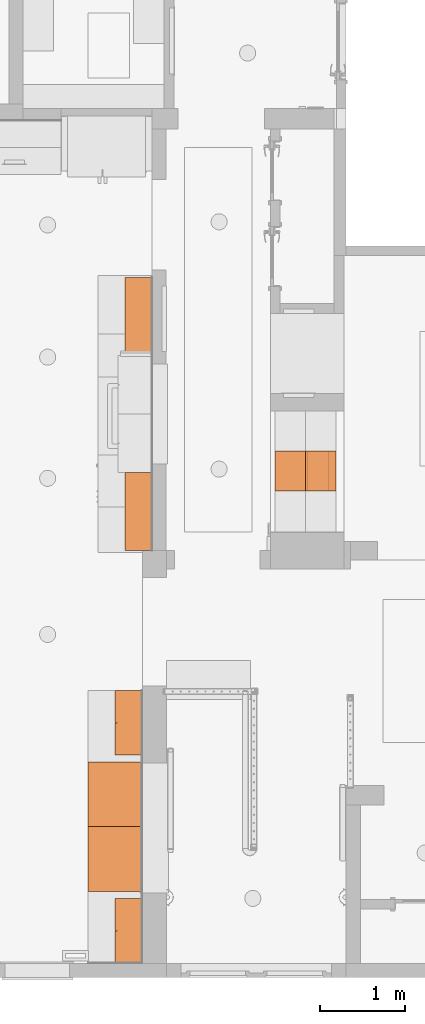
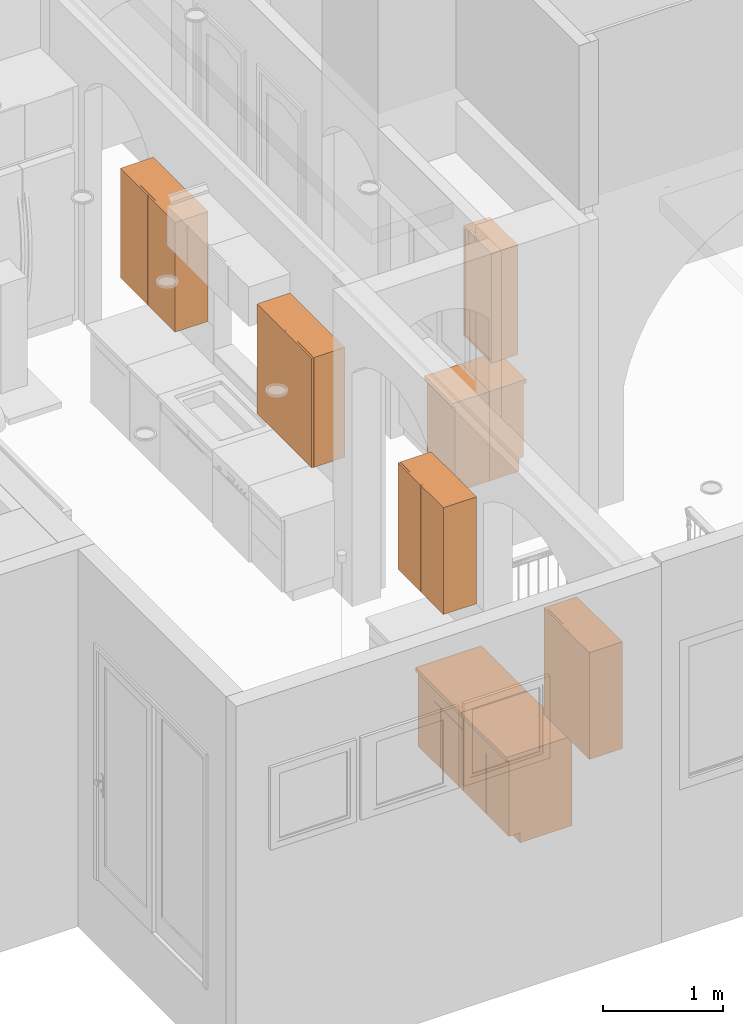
# One storey, part 55 of 77: 9 proxies.
"""IFC2X3 building model written with IfcOpenShell, lengths in inches."""

from ifc_helpers import new_model, entity, si_unit, converted_unit, derived_unit, money_unit, direction, frame, origin_with_axes, place, context, subcontext, project, spatial, faceted_brep, source, transform, mapped, type_object, element, save


model = new_model("IFC2X3")

# Units and contexts
model_context = context("Model", 3, precision=0.000393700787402, world=origin_with_axes(), true_north=direction((0.0, 1.0)))
body_context = subcontext(model_context, "Body", "Model", "MODEL_VIEW")
ifc_project = project(units=[converted_unit("LENGTHUNIT", "INCH", entity("IfcPositiveLengthMeasure", 0.0254), si_unit("LENGTHUNIT", "METRE"), dimensions=[1, 0, 0, 0, 0, 0, 0]), converted_unit("AREAUNIT", "SQUARE_FOOT", entity("IfcPositiveLengthMeasure", 0.09290304), si_unit("AREAUNIT", "SQUARE_METRE"), dimensions=[2, 0, 0, 0, 0, 0, 0]), si_unit("PLANEANGLEUNIT", "RADIAN"), si_unit("SOLIDANGLEUNIT", "STERADIAN"), money_unit("USD"), converted_unit("TIMEUNIT", "Year", entity("IfcTimeMeasure", 31556926.0), si_unit("TIMEUNIT", "SECOND"), dimensions=[0, 0, 1, 0, 0, 0, 0]), si_unit("MASSUNIT", "GRAM", prefix="KILO"), si_unit("THERMODYNAMICTEMPERATUREUNIT", "DEGREE_CELSIUS"), si_unit("LUMINOUSINTENSITYUNIT", "LUMEN"), si_unit("ENERGYUNIT", "JOULE", prefix="MEGA"), derived_unit("THERMALCONDUCTANCEUNIT", [(si_unit("POWERUNIT", "WATT"), 1), (si_unit("LENGTHUNIT", "METRE"), -1), (si_unit("THERMODYNAMICTEMPERATUREUNIT", "KELVIN"), -1)]), derived_unit("SPECIFICHEATCAPACITYUNIT", [(si_unit("ENERGYUNIT", "JOULE"), 1), (si_unit("MASSUNIT", "GRAM", prefix="KILO"), -1), (si_unit("THERMODYNAMICTEMPERATUREUNIT", "KELVIN"), -1)]), derived_unit("MASSDENSITYUNIT", [(si_unit("MASSUNIT", "GRAM", prefix="KILO"), 1), (si_unit("VOLUMEUNIT", "CUBIC_METRE"), -1)])], contexts=[model_context])

# Site, building, storey
site_placement = place(None, origin_with_axes())
site = spatial("IfcSite", under=ifc_project, at=site_placement, Name="Site", CompositionType="ELEMENT")
building_placement = place(site_placement, origin_with_axes())
building = spatial("IfcBuilding", under=site, at=building_placement, Name="Building", CompositionType="ELEMENT")
storey_placement = place(building_placement, frame((0.0, 0.0, 127.952755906), z_axis=(0.0, 0.0, 1.0), x_axis=(1.0, 0.0, 0.0)))
storey = spatial("IfcBuildingStorey", under=building, at=storey_placement, Name="Second Floor", CompositionType="ELEMENT", Elevation=127.953)

# Proxies
building_element_proxy_type_1 = type_object("IfcBuildingElementProxyType", Name="Wall Cabinet Block 25", PredefinedType="NOTDEFINED")
shared_shape_1 = source(origin_with_axes(), body_context, "Body", "Brep", [
    faceted_brep([(0.75, -9.28937007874, 70.8361220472), (17.7539370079, -9.28937007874, 70.8361220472), (17.7539370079, -9.28937007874, 71.5861220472), (0.75, -9.28937007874, 71.5861220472), (0.75, -0.75, 70.8361220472), (17.7539370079, -0.75, 70.8361220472), (17.7539370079, -0.75, 71.5861220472), (0.75, -0.75, 71.5861220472)], [[[0, 1, 2, 3]], [[0, 4, 5, 1]], [[1, 5, 6, 2]], [[3, 2, 6, 7]], [[4, 0, 3, 7]], [[5, 4, 7, 6]]]),
    faceted_brep([(0.75, -9.28937007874, 81.6722440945), (17.7539370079, -9.28937007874, 81.6722440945), (17.7539370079, -9.28937007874, 82.4222440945), (0.75, -9.28937007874, 82.4222440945), (0.75, -0.75, 81.6722440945), (17.7539370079, -0.75, 81.6722440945), (17.7539370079, -0.75, 82.4222440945), (0.75, -0.75, 82.4222440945)], [[[0, 1, 2, 3]], [[0, 4, 5, 1]], [[1, 5, 6, 2]], [[3, 2, 6, 7]], [[4, 0, 3, 7]], [[5, 4, 7, 6]]]),
    faceted_brep([(0.75, -9.28937007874, 92.5083661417), (17.7539370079, -9.28937007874, 92.5083661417), (17.7539370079, -9.28937007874, 93.2583661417), (0.75, -9.28937007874, 93.2583661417), (0.75, -0.75, 92.5083661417), (17.7539370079, -0.75, 92.5083661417), (17.7539370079, -0.75, 93.2583661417), (0.75, -0.75, 93.2583661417)], [[[0, 1, 2, 3]], [[0, 4, 5, 1]], [[1, 5, 6, 2]], [[3, 2, 6, 7]], [[4, 0, 3, 7]], [[5, 4, 7, 6]]]),
    faceted_brep([(0.0393700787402, -10.0393700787, 60.0393700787), (0.0393700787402, -10.0393700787, 104.05511811), (0.0393700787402, -9.28937007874, 104.05511811), (0.0393700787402, -9.28937007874, 60.0393700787), (3.03937007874, -10.0393700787, 63.0393700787), (3.03937007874, -10.0393700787, 101.05511811), (3.03937007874, -9.28937007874, 101.05511811), (3.03937007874, -9.28937007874, 63.0393700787)], [[[0, 1, 2, 3]], [[1, 0, 4, 5]], [[2, 1, 5, 6]], [[3, 2, 6, 7]], [[0, 3, 7, 4]], [[5, 4, 7, 6]]]),
    faceted_brep([(15.4645669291, -10.0393700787, 63.0393700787), (15.4645669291, -10.0393700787, 101.05511811), (15.4645669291, -9.28937007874, 101.05511811), (15.4645669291, -9.28937007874, 63.0393700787), (18.4645669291, -10.0393700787, 60.0393700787), (18.4645669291, -10.0393700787, 104.05511811), (18.4645669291, -9.28937007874, 104.05511811), (18.4645669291, -9.28937007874, 60.0393700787)], [[[0, 1, 2, 3]], [[1, 0, 4, 5]], [[2, 1, 5, 6]], [[3, 2, 6, 7]], [[0, 3, 7, 4]], [[5, 4, 7, 6]]]),
    faceted_brep([(0.0393700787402, -9.28937007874, 60.0393700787), (0.0393700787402, -10.0393700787, 60.0393700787), (3.03937007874, -10.0393700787, 63.0393700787), (3.03937007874, -9.28937007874, 63.0393700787), (18.4645669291, -9.28937007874, 60.0393700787), (18.4645669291, -10.0393700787, 60.0393700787), (15.4645669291, -10.0393700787, 63.0393700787), (15.4645669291, -9.28937007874, 63.0393700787)], [[[0, 1, 2, 3]], [[1, 0, 4, 5]], [[2, 1, 5, 6]], [[7, 3, 2, 6]], [[0, 3, 7, 4]], [[7, 6, 5, 4]]]),
    faceted_brep([(0.0393700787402, -10.0393700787, 104.05511811), (0.0393700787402, -9.28937007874, 104.05511811), (3.03937007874, -9.28937007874, 101.05511811), (3.03937007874, -10.0393700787, 101.05511811), (18.4645669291, -10.0393700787, 104.05511811), (18.4645669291, -9.28937007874, 104.05511811), (15.4645669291, -9.28937007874, 101.05511811), (15.4645669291, -10.0393700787, 101.05511811)], [[[0, 1, 2, 3]], [[1, 0, 4, 5]], [[2, 1, 5, 6]], [[2, 6, 7, 3]], [[0, 3, 7, 4]], [[7, 6, 5, 4]]]),
    faceted_brep([(15.4645669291, -9.47687007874, 63.0393700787), (3.03937007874, -9.47687007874, 63.0393700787), (3.03937007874, -9.47687007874, 101.05511811), (15.4645669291, -9.47687007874, 101.05511811), (15.4645669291, -9.85187007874, 63.0393700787), (3.03937007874, -9.85187007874, 63.0393700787), (3.03937007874, -9.85187007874, 101.05511811), (15.4645669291, -9.85187007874, 101.05511811)], [[[0, 1, 2, 3]], [[1, 0, 4, 5]], [[2, 1, 5, 6]], [[3, 2, 6, 7]], [[0, 3, 7, 4]], [[5, 4, 7, 6]]]),
    faceted_brep([(0.75, -9.28937007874, 60.0), (17.7539370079, -9.28937007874, 60.0), (17.7539370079, -9.28937007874, 60.75), (0.75, -9.28937007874, 60.75), (0.75, 0.0, 60.0), (17.7539370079, 0.0, 60.0), (17.7539370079, 0.0, 60.75), (0.75, 0.0, 60.75)], [[[0, 1, 2, 3]], [[0, 4, 5, 1]], [[1, 5, 6, 2]], [[3, 2, 6, 7]], [[4, 0, 3, 7]], [[5, 4, 7, 6]]]),
    faceted_brep([(0.75, -9.28937007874, 103.344488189), (17.7539370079, -9.28937007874, 103.344488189), (17.7539370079, -9.28937007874, 104.094488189), (0.75, -9.28937007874, 104.094488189), (0.75, 0.0, 103.344488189), (17.7539370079, 0.0, 103.344488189), (17.7539370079, 0.0, 104.094488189), (0.75, 0.0, 104.094488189)], [[[0, 1, 2, 3]], [[0, 4, 5, 1]], [[1, 5, 6, 2]], [[3, 2, 6, 7]], [[4, 0, 3, 7]], [[5, 4, 7, 6]]]),
    faceted_brep([(0.0, 0.0, 60.0), (0.0, -9.28937007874, 60.0), (0.0, -9.28937007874, 104.094488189), (0.0, 0.0, 104.094488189), (0.75, 0.0, 60.0), (0.75, -9.28937007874, 60.0), (0.75, -9.28937007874, 104.094488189), (0.75, 0.0, 104.094488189)], [[[0, 1, 2, 3]], [[0, 4, 5, 1]], [[1, 5, 6, 2]], [[3, 2, 6, 7]], [[4, 0, 3, 7]], [[5, 4, 7, 6]]]),
    faceted_brep([(18.5039370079, -9.28937007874, 60.0), (18.5039370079, 0.0, 60.0), (18.5039370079, 0.0, 104.094488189), (18.5039370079, -9.28937007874, 104.094488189), (17.7539370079, -9.28937007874, 60.0), (17.7539370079, 0.0, 60.0), (17.7539370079, 0.0, 104.094488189), (17.7539370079, -9.28937007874, 104.094488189)], [[[0, 1, 2, 3]], [[0, 4, 5, 1]], [[1, 5, 6, 2]], [[3, 2, 6, 7]], [[4, 0, 3, 7]], [[5, 4, 7, 6]]]),
    faceted_brep([(17.7539370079, -0.375, 60.75), (0.75, -0.375, 60.75), (0.75, -0.375, 103.344488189), (17.7539370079, -0.375, 103.344488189), (17.7539370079, -0.75, 60.75), (0.75, -0.75, 60.75), (0.75, -0.75, 103.344488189), (17.7539370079, -0.75, 103.344488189)], [[[0, 1, 2, 3]], [[0, 4, 5, 1]], [[1, 5, 6, 2]], [[3, 2, 6, 7]], [[4, 0, 3, 7]], [[5, 4, 7, 6]]]),
])
proxy_1_placement = place(storey_placement, frame((708.989643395, 237.331273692, -12.9527559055), z_axis=(0.0, 0.0, 1.0), x_axis=(0.0, 1.0, 0.0)))
element("IfcBuildingElementProxy", 1, at=proxy_1_placement, inside=storey, type_object=building_element_proxy_type_1, Name="FU - 005", context=body_context, shape_type="MappedRepresentation", body=[
    mapped(shared_shape_1, transform((0.0, 0.0, 0.0))),
])
building_element_proxy_type_2 = type_object("IfcBuildingElementProxyType", Name="Base Cabinet Block 25", PredefinedType="NOTDEFINED")
shared_shape_2 = source(origin_with_axes(), body_context, "Body", "Brep", [
    faceted_brep([(0.0, -14.0, 34.4488188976), (18.5039370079, -14.0, 34.4488188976), (18.5039370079, -14.0, 35.9488188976), (0.0, -14.0, 35.9488188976), (0.0, 0.0, 34.4488188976), (18.5039370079, 0.0, 34.4488188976), (18.5039370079, 0.0, 35.9488188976), (0.0, 0.0, 35.9488188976)], [[[0, 1, 2, 3]], [[0, 4, 5, 1]], [[1, 5, 6, 2]], [[3, 2, 6, 7]], [[4, 0, 3, 7]], [[5, 4, 7, 6]]]),
    faceted_brep([(0.0393700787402, -12.25, 5.03937007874), (18.4645669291, -12.25, 5.03937007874), (18.4645669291, -13.0, 5.03937007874), (0.0393700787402, -13.0, 5.03937007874), (0.0393700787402, -12.25, 34.4094488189), (18.4645669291, -12.25, 34.4094488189), (18.4645669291, -13.0, 34.4094488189), (0.0393700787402, -13.0, 34.4094488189)], [[[0, 1, 2, 3]], [[0, 4, 5, 1]], [[1, 5, 6, 2]], [[3, 2, 6, 7]], [[4, 0, 3, 7]], [[5, 4, 7, 6]]]),
    faceted_brep([(0.75, -12.25, 5.0), (17.7539370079, -12.25, 5.0), (17.7539370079, -12.25, 5.75), (0.75, -12.25, 5.75), (0.75, 0.0, 5.0), (17.7539370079, 0.0, 5.0), (17.7539370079, 0.0, 5.75), (0.75, 0.0, 5.75)], [[[0, 1, 2, 3]], [[0, 4, 5, 1]], [[1, 5, 6, 2]], [[3, 2, 6, 7]], [[4, 0, 3, 7]], [[5, 4, 7, 6]]]),
    faceted_brep([(0.75, -12.25, 33.6988188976), (0.75, -9.88779527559, 33.6988188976), (17.7539370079, -9.88779527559, 33.6988188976), (17.7539370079, -12.25, 33.6988188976), (0.75, -12.25, 34.4488188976), (0.75, -9.88779527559, 34.4488188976), (17.7539370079, -9.88779527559, 34.4488188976), (17.7539370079, -12.25, 34.4488188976)], [[[0, 1, 2, 3]], [[0, 4, 5, 1]], [[1, 5, 6, 2]], [[3, 2, 6, 7]], [[4, 0, 3, 7]], [[5, 4, 7, 6]]]),
    faceted_brep([(17.7539370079, 0.0, 33.6988188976), (17.7539370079, -2.36220472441, 33.6988188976), (0.75, -2.36220472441, 33.6988188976), (0.75, 0.0, 33.6988188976), (17.7539370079, 0.0, 34.4488188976), (17.7539370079, -2.36220472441, 34.4488188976), (0.75, -2.36220472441, 34.4488188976), (0.75, 0.0, 34.4488188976)], [[[0, 1, 2, 3]], [[0, 4, 5, 1]], [[1, 5, 6, 2]], [[3, 2, 6, 7]], [[4, 0, 3, 7]], [[5, 4, 7, 6]]]),
    faceted_brep([(0.0, 0.0, 5.0), (0.0, -12.25, 5.0), (0.0, -12.25, 34.4488188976), (0.0, 0.0, 34.4488188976), (0.75, 0.0, 5.0), (0.75, -12.25, 5.0), (0.75, -12.25, 34.4488188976), (0.75, 0.0, 34.4488188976)], [[[0, 1, 2, 3]], [[0, 4, 5, 1]], [[1, 5, 6, 2]], [[3, 2, 6, 7]], [[4, 0, 3, 7]], [[5, 4, 7, 6]]]),
    faceted_brep([(18.5039370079, -12.25, 5.0), (18.5039370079, 0.0, 5.0), (18.5039370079, 0.0, 34.4488188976), (18.5039370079, -12.25, 34.4488188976), (17.7539370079, -12.25, 5.0), (17.7539370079, 0.0, 5.0), (17.7539370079, 0.0, 34.4488188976), (17.7539370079, -12.25, 34.4488188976)], [[[0, 1, 2, 3]], [[0, 4, 5, 1]], [[1, 5, 6, 2]], [[3, 2, 6, 7]], [[4, 0, 3, 7]], [[5, 4, 7, 6]]]),
    faceted_brep([(17.7539370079, -0.375, 5.75), (0.75, -0.375, 5.75), (0.75, -0.375, 33.6988188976), (17.7539370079, -0.375, 33.6988188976), (17.7539370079, -0.75, 5.75), (0.75, -0.75, 5.75), (0.75, -0.75, 33.6988188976), (17.7539370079, -0.75, 33.6988188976)], [[[0, 1, 2, 3]], [[0, 4, 5, 1]], [[1, 5, 6, 2]], [[3, 2, 6, 7]], [[4, 0, 3, 7]], [[5, 4, 7, 6]]]),
    faceted_brep([(0.0, -11.25, 0.0), (18.5039370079, -11.25, 0.0), (18.5039370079, -11.25, 5.0), (0.0, -11.25, 5.0), (0.0, 0.0, 0.0), (18.5039370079, 0.0, 0.0), (18.5039370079, 0.0, 5.0), (0.0, 0.0, 5.0)], [[[0, 1, 2, 3]], [[0, 4, 5, 1]], [[1, 5, 6, 2]], [[3, 2, 6, 7]], [[4, 0, 3, 7]], [[5, 4, 7, 6]]]),
])
proxy_2_placement = place(storey_placement, frame((708.239643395, 237.35347497, 0.0), z_axis=(0.0, 0.0, 1.0), x_axis=(0.0, 1.0, 0.0)))
element("IfcBuildingElementProxy", 2, at=proxy_2_placement, inside=storey, type_object=building_element_proxy_type_2, Name="FU - 004", context=body_context, shape_type="MappedRepresentation", body=[
    mapped(shared_shape_2, transform((0.0, 0.0, 0.0))),
])
shared_shape_3 = source(origin_with_axes(), body_context, "Body", "Brep", [
    faceted_brep([(0.0, -14.0, 34.4488188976), (0.0, -14.0, 35.9488188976), (-18.5039370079, -14.0, 35.9488188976), (-18.5039370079, -14.0, 34.4488188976), (0.0, 0.0, 34.4488188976), (0.0, 0.0, 35.9488188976), (-18.5039370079, 0.0, 35.9488188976), (-18.5039370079, 0.0, 34.4488188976)], [[[0, 1, 2, 3]], [[4, 5, 1, 0]], [[1, 5, 6, 2]], [[3, 2, 6, 7]], [[0, 3, 7, 4]], [[7, 6, 5, 4]]]),
    faceted_brep([(-0.0393700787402, -12.25, 5.03937007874), (-0.0393700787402, -13.0, 5.03937007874), (-18.4645669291, -13.0, 5.03937007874), (-18.4645669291, -12.25, 5.03937007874), (-0.0393700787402, -12.25, 34.4094488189), (-0.0393700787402, -13.0, 34.4094488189), (-18.4645669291, -13.0, 34.4094488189), (-18.4645669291, -12.25, 34.4094488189)], [[[0, 1, 2, 3]], [[4, 5, 1, 0]], [[1, 5, 6, 2]], [[3, 2, 6, 7]], [[0, 3, 7, 4]], [[7, 6, 5, 4]]]),
    faceted_brep([(-0.75, -12.25, 5.0), (-0.75, -12.25, 5.75), (-17.7539370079, -12.25, 5.75), (-17.7539370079, -12.25, 5.0), (-0.75, 0.0, 5.0), (-0.75, 0.0, 5.75), (-17.7539370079, 0.0, 5.75), (-17.7539370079, 0.0, 5.0)], [[[0, 1, 2, 3]], [[4, 5, 1, 0]], [[1, 5, 6, 2]], [[3, 2, 6, 7]], [[0, 3, 7, 4]], [[7, 6, 5, 4]]]),
    faceted_brep([(-0.75, -12.25, 33.6988188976), (-17.7539370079, -12.25, 33.6988188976), (-17.7539370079, -9.88779527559, 33.6988188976), (-0.75, -9.88779527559, 33.6988188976), (-0.75, -12.25, 34.4488188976), (-17.7539370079, -12.25, 34.4488188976), (-17.7539370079, -9.88779527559, 34.4488188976), (-0.75, -9.88779527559, 34.4488188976)], [[[0, 1, 2, 3]], [[4, 5, 1, 0]], [[1, 5, 6, 2]], [[3, 2, 6, 7]], [[0, 3, 7, 4]], [[7, 6, 5, 4]]]),
    faceted_brep([(-17.7539370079, 0.0, 33.6988188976), (-0.75, 0.0, 33.6988188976), (-0.75, -2.36220472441, 33.6988188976), (-17.7539370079, -2.36220472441, 33.6988188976), (-17.7539370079, 0.0, 34.4488188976), (-0.75, 0.0, 34.4488188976), (-0.75, -2.36220472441, 34.4488188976), (-17.7539370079, -2.36220472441, 34.4488188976)], [[[0, 1, 2, 3]], [[4, 5, 1, 0]], [[1, 5, 6, 2]], [[3, 2, 6, 7]], [[0, 3, 7, 4]], [[7, 6, 5, 4]]]),
    faceted_brep([(0.0, 0.0, 5.0), (0.0, 0.0, 34.4488188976), (0.0, -12.25, 34.4488188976), (0.0, -12.25, 5.0), (-0.75, 0.0, 5.0), (-0.75, 0.0, 34.4488188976), (-0.75, -12.25, 34.4488188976), (-0.75, -12.25, 5.0)], [[[0, 1, 2, 3]], [[4, 5, 1, 0]], [[1, 5, 6, 2]], [[3, 2, 6, 7]], [[0, 3, 7, 4]], [[7, 6, 5, 4]]]),
    faceted_brep([(-18.5039370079, -12.25, 5.0), (-18.5039370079, -12.25, 34.4488188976), (-18.5039370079, 0.0, 34.4488188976), (-18.5039370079, 0.0, 5.0), (-17.7539370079, -12.25, 5.0), (-17.7539370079, -12.25, 34.4488188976), (-17.7539370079, 0.0, 34.4488188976), (-17.7539370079, 0.0, 5.0)], [[[0, 1, 2, 3]], [[4, 5, 1, 0]], [[1, 5, 6, 2]], [[3, 2, 6, 7]], [[0, 3, 7, 4]], [[7, 6, 5, 4]]]),
    faceted_brep([(-17.7539370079, -0.375, 5.75), (-17.7539370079, -0.375, 33.6988188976), (-0.75, -0.375, 33.6988188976), (-0.75, -0.375, 5.75), (-17.7539370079, -0.75, 5.75), (-17.7539370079, -0.75, 33.6988188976), (-0.75, -0.75, 33.6988188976), (-0.75, -0.75, 5.75)], [[[0, 1, 2, 3]], [[4, 5, 1, 0]], [[1, 5, 6, 2]], [[3, 2, 6, 7]], [[0, 3, 7, 4]], [[7, 6, 5, 4]]]),
    faceted_brep([(0.0, -11.25, 0.0), (0.0, -11.25, 5.0), (-18.5039370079, -11.25, 5.0), (-18.5039370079, -11.25, 0.0), (0.0, 0.0, 0.0), (0.0, 0.0, 5.0), (-18.5039370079, 0.0, 5.0), (-18.5039370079, 0.0, 0.0)], [[[0, 1, 2, 3]], [[4, 5, 1, 0]], [[1, 5, 6, 2]], [[3, 2, 6, 7]], [[0, 3, 7, 4]], [[7, 6, 5, 4]]]),
])
proxy_3_placement = place(storey_placement, frame((708.239643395, 237.35347497, 0.0), z_axis=(0.0, 0.0, 1.0), x_axis=(0.0, -1.0, 0.0)))
element("IfcBuildingElementProxy", 3, at=proxy_3_placement, inside=storey, type_object=building_element_proxy_type_2, Name="FU - 004", context=body_context, shape_type="MappedRepresentation", body=[
    mapped(shared_shape_3, transform((0.0, 0.0, 0.0))),
])
shared_shape_4 = source(origin_with_axes(), body_context, "Body", "Brep", [
    faceted_brep([(0.75, -11.811023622, 81.6722440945), (35.2736220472, -11.811023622, 81.6722440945), (35.2736220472, -11.811023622, 82.4222440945), (0.75, -11.811023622, 82.4222440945), (0.75, -0.75, 81.6722440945), (35.2736220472, -0.75, 81.6722440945), (35.2736220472, -0.75, 82.4222440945), (0.75, -0.75, 82.4222440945)], [[[0, 1, 2, 3]], [[0, 4, 5, 1]], [[1, 5, 6, 2]], [[3, 2, 6, 7]], [[4, 0, 3, 7]], [[5, 4, 7, 6]]]),
    faceted_brep([(0.0393700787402, -11.811023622, 60.0393700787), (17.9724409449, -11.811023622, 60.0393700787), (17.9724409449, -12.561023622, 60.0393700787), (0.0393700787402, -12.561023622, 60.0393700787), (0.0393700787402, -11.811023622, 104.05511811), (17.9724409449, -11.811023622, 104.05511811), (17.9724409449, -12.561023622, 104.05511811), (0.0393700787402, -12.561023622, 104.05511811)], [[[0, 1, 2, 3]], [[0, 4, 5, 1]], [[1, 5, 6, 2]], [[3, 2, 6, 7]], [[4, 0, 3, 7]], [[5, 4, 7, 6]]]),
    faceted_brep([(35.9842519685, -11.811023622, 60.0393700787), (35.9842519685, -12.561023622, 60.0393700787), (18.0511811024, -12.561023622, 60.0393700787), (18.0511811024, -11.811023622, 60.0393700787), (35.9842519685, -11.811023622, 104.05511811), (35.9842519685, -12.561023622, 104.05511811), (18.0511811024, -12.561023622, 104.05511811), (18.0511811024, -11.811023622, 104.05511811)], [[[0, 1, 2, 3]], [[4, 5, 1, 0]], [[1, 5, 6, 2]], [[3, 2, 6, 7]], [[0, 3, 7, 4]], [[7, 6, 5, 4]]]),
    faceted_brep([(0.75, -11.811023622, 60.0), (35.2736220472, -11.811023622, 60.0), (35.2736220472, -11.811023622, 60.75), (0.75, -11.811023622, 60.75), (0.75, 0.0, 60.0), (35.2736220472, 0.0, 60.0), (35.2736220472, 0.0, 60.75), (0.75, 0.0, 60.75)], [[[0, 1, 2, 3]], [[0, 4, 5, 1]], [[1, 5, 6, 2]], [[3, 2, 6, 7]], [[4, 0, 3, 7]], [[5, 4, 7, 6]]]),
    faceted_brep([(0.75, -11.811023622, 103.344488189), (35.2736220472, -11.811023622, 103.344488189), (35.2736220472, -11.811023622, 104.094488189), (0.75, -11.811023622, 104.094488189), (0.75, 0.0, 103.344488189), (35.2736220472, 0.0, 103.344488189), (35.2736220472, 0.0, 104.094488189), (0.75, 0.0, 104.094488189)], [[[0, 1, 2, 3]], [[0, 4, 5, 1]], [[1, 5, 6, 2]], [[3, 2, 6, 7]], [[4, 0, 3, 7]], [[5, 4, 7, 6]]]),
    faceted_brep([(0.0, 0.0, 60.0), (0.0, -11.811023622, 60.0), (0.0, -11.811023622, 104.094488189), (0.0, 0.0, 104.094488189), (0.75, 0.0, 60.0), (0.75, -11.811023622, 60.0), (0.75, -11.811023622, 104.094488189), (0.75, 0.0, 104.094488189)], [[[0, 1, 2, 3]], [[0, 4, 5, 1]], [[1, 5, 6, 2]], [[3, 2, 6, 7]], [[4, 0, 3, 7]], [[5, 4, 7, 6]]]),
    faceted_brep([(36.0236220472, -11.811023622, 60.0), (36.0236220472, 0.0, 60.0), (36.0236220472, 0.0, 104.094488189), (36.0236220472, -11.811023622, 104.094488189), (35.2736220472, -11.811023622, 60.0), (35.2736220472, 0.0, 60.0), (35.2736220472, 0.0, 104.094488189), (35.2736220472, -11.811023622, 104.094488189)], [[[0, 1, 2, 3]], [[0, 4, 5, 1]], [[1, 5, 6, 2]], [[3, 2, 6, 7]], [[4, 0, 3, 7]], [[5, 4, 7, 6]]]),
    faceted_brep([(35.2736220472, -0.375, 60.75), (0.75, -0.375, 60.75), (0.75, -0.375, 103.344488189), (35.2736220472, -0.375, 103.344488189), (35.2736220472, -0.75, 60.75), (0.75, -0.75, 60.75), (0.75, -0.75, 103.344488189), (35.2736220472, -0.75, 103.344488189)], [[[0, 1, 2, 3]], [[0, 4, 5, 1]], [[1, 5, 6, 2]], [[3, 2, 6, 7]], [[4, 0, 3, 7]], [[5, 4, 7, 6]]]),
])
for number, where, z_axis, x_axis, name in (
    (4, (637.475940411, 335.938423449, -9.0), (0.0, 0.0, 1.0), (0.0, -1.0, 0.0), "OBJ-21"),
    (5, (637.468461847, 245.977007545, -9.0), (0.0, 0.0, 1.0), (0.0, -1.0, 0.0), "OBJ-21"),
):
    element("IfcBuildingElementProxy", number, at=place(storey_placement, frame(where, z_axis=z_axis, x_axis=x_axis)), inside=storey, type_object=building_element_proxy_type_1, Name=name, context=body_context, shape_type="MappedRepresentation", body=[
        mapped(shared_shape_4, transform((0.0, 0.0, 0.0))),
    ])
shared_shape_5 = source(origin_with_axes(), body_context, "Body", "Brep", [
    faceted_brep([(0.75, -11.811023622, 81.0816929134), (29.1712598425, -11.811023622, 81.0816929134), (29.1712598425, -11.811023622, 81.8316929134), (0.75, -11.811023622, 81.8316929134), (0.75, -0.75, 81.0816929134), (29.1712598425, -0.75, 81.0816929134), (29.1712598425, -0.75, 81.8316929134), (0.75, -0.75, 81.8316929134)], [[[0, 1, 2, 3]], [[0, 4, 5, 1]], [[1, 5, 6, 2]], [[3, 2, 6, 7]], [[4, 0, 3, 7]], [[5, 4, 7, 6]]]),
    faceted_brep([(0.0393700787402, -11.811023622, 60.0393700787), (14.9212598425, -11.811023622, 60.0393700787), (14.9212598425, -12.561023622, 60.0393700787), (0.0393700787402, -12.561023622, 60.0393700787), (0.0393700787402, -11.811023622, 102.874015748), (14.9212598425, -11.811023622, 102.874015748), (14.9212598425, -12.561023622, 102.874015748), (0.0393700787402, -12.561023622, 102.874015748)], [[[0, 1, 2, 3]], [[0, 4, 5, 1]], [[1, 5, 6, 2]], [[3, 2, 6, 7]], [[4, 0, 3, 7]], [[5, 4, 7, 6]]]),
    faceted_brep([(29.8818897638, -11.811023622, 60.0393700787), (29.8818897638, -12.561023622, 60.0393700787), (15.0, -12.561023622, 60.0393700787), (15.0, -11.811023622, 60.0393700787), (29.8818897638, -11.811023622, 102.874015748), (29.8818897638, -12.561023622, 102.874015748), (15.0, -12.561023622, 102.874015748), (15.0, -11.811023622, 102.874015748)], [[[0, 1, 2, 3]], [[4, 5, 1, 0]], [[1, 5, 6, 2]], [[3, 2, 6, 7]], [[0, 3, 7, 4]], [[7, 6, 5, 4]]]),
    faceted_brep([(0.75, -11.811023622, 60.0), (29.1712598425, -11.811023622, 60.0), (29.1712598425, -11.811023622, 60.75), (0.75, -11.811023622, 60.75), (0.75, 0.0, 60.0), (29.1712598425, 0.0, 60.0), (29.1712598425, 0.0, 60.75), (0.75, 0.0, 60.75)], [[[0, 1, 2, 3]], [[0, 4, 5, 1]], [[1, 5, 6, 2]], [[3, 2, 6, 7]], [[4, 0, 3, 7]], [[5, 4, 7, 6]]]),
    faceted_brep([(0.75, -11.811023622, 102.163385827), (29.1712598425, -11.811023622, 102.163385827), (29.1712598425, -11.811023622, 102.913385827), (0.75, -11.811023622, 102.913385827), (0.75, 0.0, 102.163385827), (29.1712598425, 0.0, 102.163385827), (29.1712598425, 0.0, 102.913385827), (0.75, 0.0, 102.913385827)], [[[0, 1, 2, 3]], [[0, 4, 5, 1]], [[1, 5, 6, 2]], [[3, 2, 6, 7]], [[4, 0, 3, 7]], [[5, 4, 7, 6]]]),
    faceted_brep([(0.0, 0.0, 60.0), (0.0, -11.811023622, 60.0), (0.0, -11.811023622, 102.913385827), (0.0, 0.0, 102.913385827), (0.75, 0.0, 60.0), (0.75, -11.811023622, 60.0), (0.75, -11.811023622, 102.913385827), (0.75, 0.0, 102.913385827)], [[[0, 1, 2, 3]], [[0, 4, 5, 1]], [[1, 5, 6, 2]], [[3, 2, 6, 7]], [[4, 0, 3, 7]], [[5, 4, 7, 6]]]),
    faceted_brep([(29.9212598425, -11.811023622, 60.0), (29.9212598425, 0.0, 60.0), (29.9212598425, 0.0, 102.913385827), (29.9212598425, -11.811023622, 102.913385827), (29.1712598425, -11.811023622, 60.0), (29.1712598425, 0.0, 60.0), (29.1712598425, 0.0, 102.913385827), (29.1712598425, -11.811023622, 102.913385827)], [[[0, 1, 2, 3]], [[0, 4, 5, 1]], [[1, 5, 6, 2]], [[3, 2, 6, 7]], [[4, 0, 3, 7]], [[5, 4, 7, 6]]]),
    faceted_brep([(29.1712598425, -0.375, 60.75), (0.75, -0.375, 60.75), (0.75, -0.375, 102.163385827), (29.1712598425, -0.375, 102.163385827), (29.1712598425, -0.75, 60.75), (0.75, -0.75, 60.75), (0.75, -0.75, 102.163385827), (29.1712598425, -0.75, 102.163385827)], [[[0, 1, 2, 3]], [[0, 4, 5, 1]], [[1, 5, 6, 2]], [[3, 2, 6, 7]], [[4, 0, 3, 7]], [[5, 4, 7, 6]]]),
])
for number, where, z_axis, x_axis, name in (
    (6, (632.966021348, 145.40717231, -9.0), (0.0, 0.0, 1.0), (0.0, -1.0, 0.0), "OBJ-21"),
    (7, (632.966021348, 49.4071726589, -9.0), (0.0, 0.0, 1.0), (0.0, -1.0, 0.0), "OBJ-21"),
):
    element("IfcBuildingElementProxy", number, at=place(storey_placement, frame(where, z_axis=z_axis, x_axis=x_axis)), inside=storey, type_object=building_element_proxy_type_1, Name=name, context=body_context, shape_type="MappedRepresentation", body=[
        mapped(shared_shape_5, transform((0.0, 0.0, 0.0))),
    ])
shared_shape_6 = source(origin_with_axes(), body_context, "Body", "Brep", [
    faceted_brep([(0.0, -25.0, 34.5236220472), (29.9212598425, -25.0, 34.5236220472), (29.9212598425, -25.0, 36.0236220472), (0.0, -25.0, 36.0236220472), (0.0, 0.0, 34.5236220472), (29.9212598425, 0.0, 34.5236220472), (29.9212598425, 0.0, 36.0236220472), (0.0, 0.0, 36.0236220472)], [[[0, 1, 2, 3]], [[0, 4, 5, 1]], [[1, 5, 6, 2]], [[3, 2, 6, 7]], [[4, 0, 3, 7]], [[5, 4, 7, 6]]]),
    faceted_brep([(0.75, -23.25, 28.125), (29.1712598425, -23.25, 28.125), (29.1712598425, -23.25, 28.875), (0.75, -23.25, 28.875), (0.75, -0.75, 28.125), (29.1712598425, -0.75, 28.125), (29.1712598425, -0.75, 28.875), (0.75, -0.75, 28.875)], [[[0, 1, 2, 3]], [[0, 4, 5, 1]], [[1, 5, 6, 2]], [[3, 2, 6, 7]], [[4, 0, 3, 7]], [[5, 4, 7, 6]]]),
    faceted_brep([(28.9744094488, -23.25, 29.0718503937), (0.946850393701, -23.25, 29.0718503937), (0.946850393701, -0.75, 29.0718503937), (28.9744094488, -0.75, 29.0718503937), (28.9744094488, -23.25, 29.4655511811), (0.946850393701, -23.25, 29.4655511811), (0.946850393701, -0.75, 29.4655511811), (28.9744094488, -0.75, 29.4655511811)], [[[0, 1, 2, 3]], [[1, 0, 4, 5]], [[2, 1, 5, 6]], [[3, 2, 6, 7]], [[0, 3, 7, 4]], [[5, 4, 7, 6]]]),
    faceted_brep([(1.7342519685, -23.25, 29.4655511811), (0.946850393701, -23.25, 29.4655511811), (0.946850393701, -0.75, 29.4655511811), (1.7342519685, -0.75, 29.4655511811), (1.7342519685, -23.25, 33.5767716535), (0.946850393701, -23.25, 33.5767716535), (0.946850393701, -0.75, 33.5767716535), (1.7342519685, -0.75, 33.5767716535)], [[[0, 1, 2, 3]], [[1, 0, 4, 5]], [[2, 1, 5, 6]], [[3, 2, 6, 7]], [[0, 3, 7, 4]], [[5, 4, 7, 6]]]),
    faceted_brep([(28.9744094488, -23.25, 29.4655511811), (28.187007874, -23.25, 29.4655511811), (28.187007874, -0.75, 29.4655511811), (28.9744094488, -0.75, 29.4655511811), (28.9744094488, -23.25, 33.5767716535), (28.187007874, -23.25, 33.5767716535), (28.187007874, -0.75, 33.5767716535), (28.9744094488, -0.75, 33.5767716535)], [[[0, 1, 2, 3]], [[1, 0, 4, 5]], [[2, 1, 5, 6]], [[3, 2, 6, 7]], [[0, 3, 7, 4]], [[5, 4, 7, 6]]]),
    faceted_brep([(28.187007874, -1.3405511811, 29.4655511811), (1.7342519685, -1.3405511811, 29.4655511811), (1.7342519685, -0.946850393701, 29.4655511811), (28.187007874, -0.946850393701, 29.4655511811), (28.187007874, -1.3405511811, 33.5767716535), (1.7342519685, -1.3405511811, 33.5767716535), (1.7342519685, -0.946850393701, 33.5767716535), (28.187007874, -0.946850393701, 33.5767716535)], [[[0, 1, 2, 3]], [[1, 0, 4, 5]], [[2, 1, 5, 6]], [[3, 2, 6, 7]], [[0, 3, 7, 4]], [[5, 4, 7, 6]]]),
    faceted_brep([(0.0393700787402, -23.25, 4.03937007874), (14.9212598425, -23.25, 4.03937007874), (14.9212598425, -24.0, 4.03937007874), (0.0393700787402, -24.0, 4.03937007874), (0.0393700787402, -23.25, 28.4606299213), (14.9212598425, -23.25, 28.4606299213), (14.9212598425, -24.0, 28.4606299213), (0.0393700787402, -24.0, 28.4606299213)], [[[0, 1, 2, 3]], [[0, 4, 5, 1]], [[1, 5, 6, 2]], [[3, 2, 6, 7]], [[4, 0, 3, 7]], [[5, 4, 7, 6]]]),
    faceted_brep([(29.8818897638, -23.25, 4.03937007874), (29.8818897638, -24.0, 4.03937007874), (15.0, -24.0, 4.03937007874), (15.0, -23.25, 4.03937007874), (29.8818897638, -23.25, 28.4606299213), (29.8818897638, -24.0, 28.4606299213), (15.0, -24.0, 28.4606299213), (15.0, -23.25, 28.4606299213)], [[[0, 1, 2, 3]], [[4, 5, 1, 0]], [[1, 5, 6, 2]], [[3, 2, 6, 7]], [[0, 3, 7, 4]], [[7, 6, 5, 4]]]),
    faceted_brep([(0.0393700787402, -23.25, 28.5393700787), (29.8818897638, -23.25, 28.5393700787), (29.8818897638, -24.0, 28.5393700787), (0.0393700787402, -24.0, 28.5393700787), (0.0393700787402, -23.25, 34.4842519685), (29.8818897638, -23.25, 34.4842519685), (29.8818897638, -24.0, 34.4842519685), (0.0393700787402, -24.0, 34.4842519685)], [[[0, 1, 2, 3]], [[0, 4, 5, 1]], [[1, 5, 6, 2]], [[3, 2, 6, 7]], [[4, 0, 3, 7]], [[5, 4, 7, 6]]]),
    faceted_brep([(0.75, -23.25, 4.0), (29.1712598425, -23.25, 4.0), (29.1712598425, -23.25, 4.75), (0.75, -23.25, 4.75), (0.75, 0.0, 4.0), (29.1712598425, 0.0, 4.0), (29.1712598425, 0.0, 4.75), (0.75, 0.0, 4.75)], [[[0, 1, 2, 3]], [[0, 4, 5, 1]], [[1, 5, 6, 2]], [[3, 2, 6, 7]], [[4, 0, 3, 7]], [[5, 4, 7, 6]]]),
    faceted_brep([(0.75, -23.25, 33.7736220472), (0.75, -20.8877952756, 33.7736220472), (29.1712598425, -20.8877952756, 33.7736220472), (29.1712598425, -23.25, 33.7736220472), (0.75, -23.25, 34.5236220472), (0.75, -20.8877952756, 34.5236220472), (29.1712598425, -20.8877952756, 34.5236220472), (29.1712598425, -23.25, 34.5236220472)], [[[0, 1, 2, 3]], [[0, 4, 5, 1]], [[1, 5, 6, 2]], [[3, 2, 6, 7]], [[4, 0, 3, 7]], [[5, 4, 7, 6]]]),
    faceted_brep([(29.1712598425, 0.0, 33.7736220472), (29.1712598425, -2.36220472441, 33.7736220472), (0.75, -2.36220472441, 33.7736220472), (0.75, 0.0, 33.7736220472), (29.1712598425, 0.0, 34.5236220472), (29.1712598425, -2.36220472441, 34.5236220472), (0.75, -2.36220472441, 34.5236220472), (0.75, 0.0, 34.5236220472)], [[[0, 1, 2, 3]], [[0, 4, 5, 1]], [[1, 5, 6, 2]], [[3, 2, 6, 7]], [[4, 0, 3, 7]], [[5, 4, 7, 6]]]),
    faceted_brep([(0.0, 0.0, 4.0), (0.0, -23.25, 4.0), (0.0, -23.25, 34.5236220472), (0.0, 0.0, 34.5236220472), (0.75, 0.0, 4.0), (0.75, -23.25, 4.0), (0.75, -23.25, 34.5236220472), (0.75, 0.0, 34.5236220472)], [[[0, 1, 2, 3]], [[0, 4, 5, 1]], [[1, 5, 6, 2]], [[3, 2, 6, 7]], [[4, 0, 3, 7]], [[5, 4, 7, 6]]]),
    faceted_brep([(29.9212598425, -23.25, 4.0), (29.9212598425, 0.0, 4.0), (29.9212598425, 0.0, 34.5236220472), (29.9212598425, -23.25, 34.5236220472), (29.1712598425, -23.25, 4.0), (29.1712598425, 0.0, 4.0), (29.1712598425, 0.0, 34.5236220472), (29.1712598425, -23.25, 34.5236220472)], [[[0, 1, 2, 3]], [[0, 4, 5, 1]], [[1, 5, 6, 2]], [[3, 2, 6, 7]], [[4, 0, 3, 7]], [[5, 4, 7, 6]]]),
    faceted_brep([(29.1712598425, -0.375, 4.75), (0.75, -0.375, 4.75), (0.75, -0.375, 33.7736220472), (29.1712598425, -0.375, 33.7736220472), (29.1712598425, -0.75, 4.75), (0.75, -0.75, 4.75), (0.75, -0.75, 33.7736220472), (29.1712598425, -0.75, 33.7736220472)], [[[0, 1, 2, 3]], [[0, 4, 5, 1]], [[1, 5, 6, 2]], [[3, 2, 6, 7]], [[4, 0, 3, 7]], [[5, 4, 7, 6]]]),
    faceted_brep([(0.0, -19.75, 0.0), (29.9212598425, -19.75, 0.0), (29.9212598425, -19.75, 4.0), (0.0, -19.75, 4.0), (0.0, 0.0, 0.0), (29.9212598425, 0.0, 0.0), (29.9212598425, 0.0, 4.0), (0.0, 0.0, 4.0)], [[[0, 1, 2, 3]], [[0, 4, 5, 1]], [[1, 5, 6, 2]], [[3, 2, 6, 7]], [[4, 0, 3, 7]], [[5, 4, 7, 6]]]),
])
for number, where, z_axis, x_axis, name in (
    (8, (632.966021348, 82.4859128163, 0.0), (0.0, 0.0, 1.0), (0.0, -1.0, 0.0), "OBJ-16"),
    (9, (632.966021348, 112.407172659, 0.0), (0.0, 0.0, 1.0), (0.0, -1.0, 0.0), "OBJ-16"),
):
    element("IfcBuildingElementProxy", number, at=place(storey_placement, frame(where, z_axis=z_axis, x_axis=x_axis)), inside=storey, type_object=building_element_proxy_type_2, Name=name, context=body_context, shape_type="MappedRepresentation", body=[
        mapped(shared_shape_6, transform((0.0, 0.0, 0.0))),
    ])

save(model, "model.ifc")
